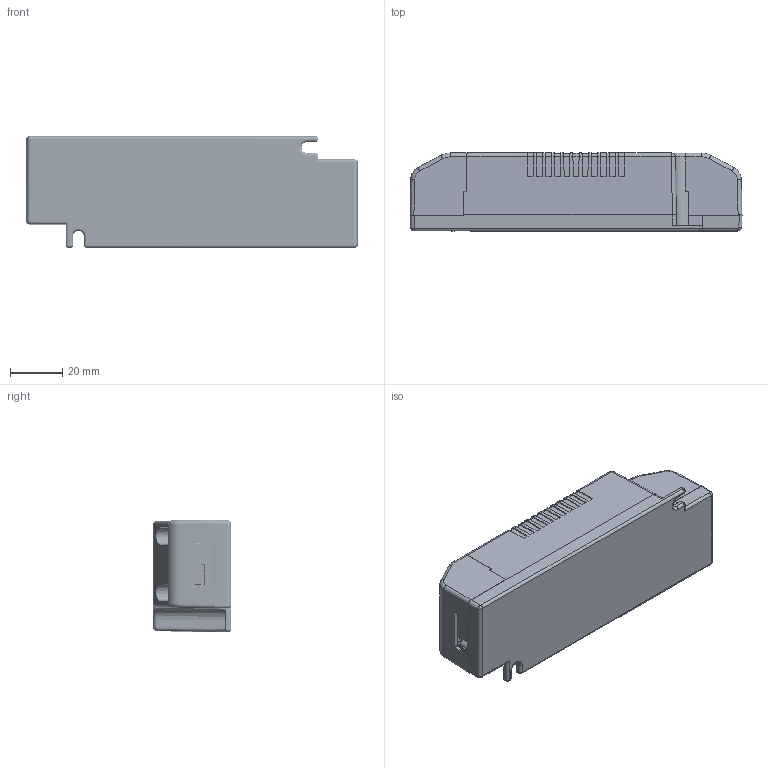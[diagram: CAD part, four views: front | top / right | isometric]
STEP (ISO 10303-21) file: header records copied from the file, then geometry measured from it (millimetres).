
FILE_DESCRIPTION((''),'2;1');
FILE_NAME('SR97','2017-09-12T',('Elon.Guo'),(''),'PRO/ENGINEER BY PARAMETRIC TECHNOLOGY CORPORATION, 2015200','PRO/ENGINEER BY PARAMETRIC TECHNOLOGY CORPORATION, 2015200','');
FILE_SCHEMA(('AUTOMOTIVE_DESIGN { 1 0 10303 214 1 1 1 1 }'));
Products named in the file (1): SR97
Bounding box: 127.09 x 29.8 x 43.09 mm (x, y, z)
Volume: 33952.4 mm3; surface area: 53004 mm2
Topology: 1 solids, 5 shells, 7490 faces, 19868 edges, 12307 vertices
Faces by surface type: plane 3150, cylinder 2036, bspline 1005, extrusion 790, sphere 248, torus 146, cone 115
Entity records: 345363 total; most frequent: CARTESIAN_POINT 115974, ORIENTED_EDGE 39134, DIRECTION 28862, PRESENTATION_STYLE_ASSIGNMENT 19568, STYLED_ITEM 19568, CURVE_STYLE 19567, EDGE_CURVE 19567, VERTEX_POINT 12307
